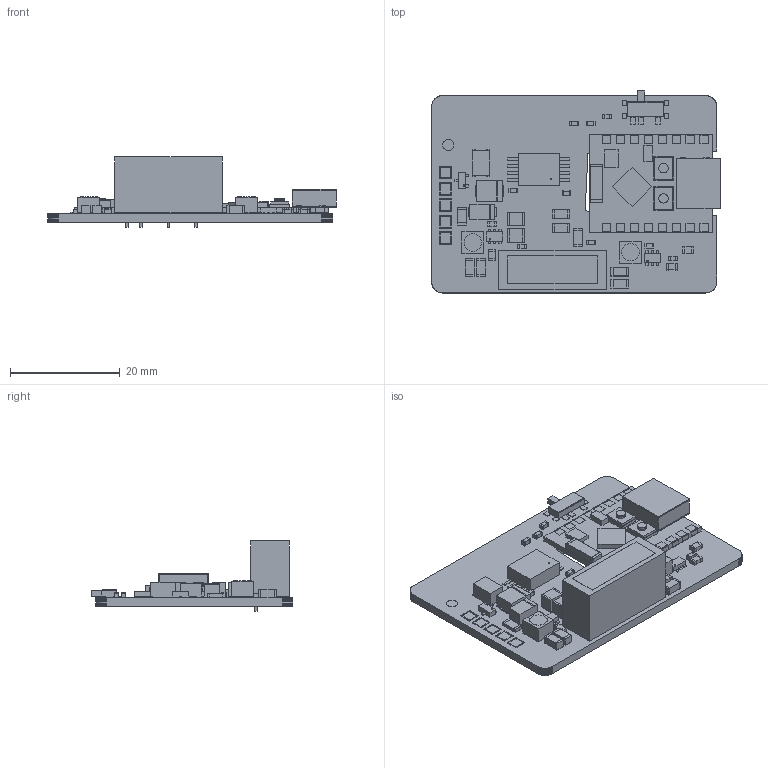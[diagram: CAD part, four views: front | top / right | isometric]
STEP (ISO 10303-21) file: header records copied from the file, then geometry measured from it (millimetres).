
FILE_DESCRIPTION(('Open CASCADE Model'),'2;1');
FILE_NAME('Open CASCADE Shape Model','2026-09-23T20:53:47',('Author'),( 'Open CASCADE'),'Open CASCADE STEP processor 7.5','Open CASCADE 7.5' ,'Unknown');
FILE_SCHEMA(('AUTOMOTIVE_DESIGN { 1 0 10303 214 1 1 1 1 }'));
Length unit declared in the file: millimetre
Products named in the file (166): PCB; Board; Open CASCADE STEP translator 7.5 2.1.1; J1; 8910698688; Extruded; 8910699216; TP1; 8910694272; D3; 8910692832; 8910693072; 7526277440; L1; 8910691536; 8910691776; U1; 7526240736; 7526246688; 7526237232; C4; 7526244384; 7526243952; C5; R2; 7526248416; R3; R4; U3; 7526278112; 7526277248; U4; U2; 8910424672; 7526484592; 7526484160; L2; 9221760336; 9221758656; 9221749152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
Assembly tree (326 placements, depth 4):
  PCB
    Board
      Open CASCADE STEP translator 7.5 2.1.1
    J1
      8910698688  x10
        Extruded
      8910699216  x10
        Extruded
    TP1
      8910694272
        Extruded
    D3
      8910692832  x3
        Extruded
      8910693072
        Extruded
      7526277440
        Extruded
    L1
      8910691536  x4
        Extruded
      8910691776
        Extruded
    U1
      7526240736  x8
        Extruded
      7526246688
        Extruded
      7526237232
        Extruded
    C4
      7526244384
        Extruded
      7526243952  x2
        Extruded
    C5
      7526244384
        Extruded
      7526243952  x2
        Extruded
    R2
      7526248416
        Extruded
      7526243952  x2
        Extruded
    R3
      7526248416
        Extruded
      7526243952  x2
        Extruded
    R4
      7526248416
        Extruded
      7526243952  x2
        Extruded
    U3
      7526278112  x6
        Extruded
      7526277248
        Extruded
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Bounding box: 52.65 x 36.85 x 12.83 mm (x, y, z)
Volume: 5300.6 mm3; surface area: 8316.9 mm2
Topology: 225 solids, 225 shells, 1782 faces, 3996 edges, 2664 vertices
Faces by surface type: plane 1782
Entity records: 25098 total; most frequent: CARTESIAN_POINT 3911, DIRECTION 3790, ORIENTED_EDGE 3456, EDGE_CURVE 1728, LINE 1728, VECTOR 1728, VERTEX_POINT 1152, AXIS2_PLACEMENT_3D 1031
